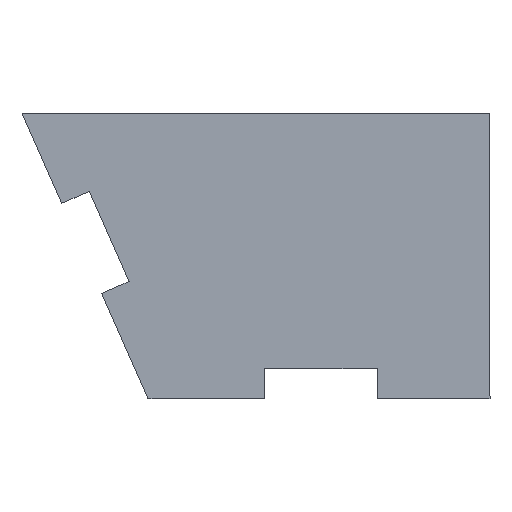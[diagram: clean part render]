
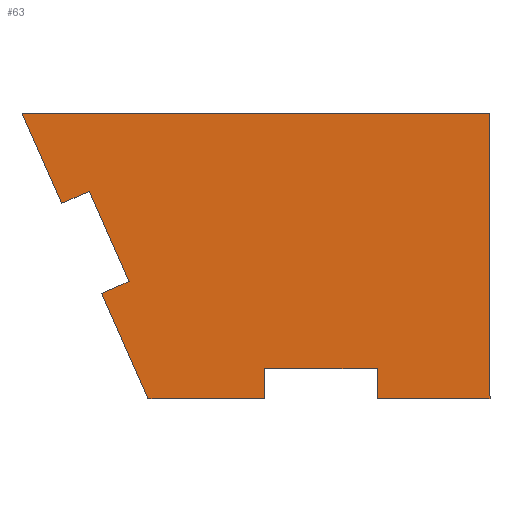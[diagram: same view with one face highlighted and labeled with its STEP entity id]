
A CAD part, top view. The second image highlights one B-rep face of the part: STEP entity #63.
In plain terms, the highlighted planar face has unit normal (0, 0, 1).
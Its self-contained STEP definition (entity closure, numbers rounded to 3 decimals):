
#63=ADVANCED_FACE('',(#91),#92,.T.);
#91=FACE_OUTER_BOUND('',#120,.T.);
#92=PLANE('',#121);
#120=EDGE_LOOP('',(#209,#210,#211,#212,#213,#214,#215,#216,#217,#218,#219,#220));
#121=AXIS2_PLACEMENT_3D('',#221,#222,#223);
#209=ORIENTED_EDGE('',*,*,#240,.F.);
#210=ORIENTED_EDGE('',*,*,#274,.F.);
#211=ORIENTED_EDGE('',*,*,#271,.F.);
#212=ORIENTED_EDGE('',*,*,#268,.F.);
#213=ORIENTED_EDGE('',*,*,#265,.F.);
#214=ORIENTED_EDGE('',*,*,#262,.F.);
#215=ORIENTED_EDGE('',*,*,#259,.F.);
#216=ORIENTED_EDGE('',*,*,#256,.F.);
#217=ORIENTED_EDGE('',*,*,#253,.F.);
#218=ORIENTED_EDGE('',*,*,#250,.F.);
#219=ORIENTED_EDGE('',*,*,#247,.F.);
#220=ORIENTED_EDGE('',*,*,#244,.F.);
#221=CARTESIAN_POINT('',(33.909,-17.632,4.0));
#222=DIRECTION('',(0.0,0.0,1.0));
#223=DIRECTION('',(1.0,0.0,0.0));
#240=EDGE_CURVE('',#276,#277,#278,.T.);
#244=EDGE_CURVE('',#277,#284,#285,.T.);
#247=EDGE_CURVE('',#284,#289,#290,.T.);
#250=EDGE_CURVE('',#289,#294,#295,.T.);
#253=EDGE_CURVE('',#294,#299,#300,.T.);
#256=EDGE_CURVE('',#299,#304,#305,.T.);
#259=EDGE_CURVE('',#304,#309,#310,.T.);
#262=EDGE_CURVE('',#309,#314,#315,.T.);
#265=EDGE_CURVE('',#314,#319,#320,.T.);
#268=EDGE_CURVE('',#319,#324,#325,.T.);
#271=EDGE_CURVE('',#324,#329,#330,.T.);
#274=EDGE_CURVE('',#329,#276,#334,.T.);
#276=VERTEX_POINT('',#336);
#277=VERTEX_POINT('',#337);
#278=LINE('',#338,#339);
#284=VERTEX_POINT('',#348);
#285=LINE('',#349,#350);
#289=VERTEX_POINT('',#356);
#290=LINE('',#357,#358);
#294=VERTEX_POINT('',#364);
#295=LINE('',#365,#366);
#299=VERTEX_POINT('',#372);
#300=LINE('',#373,#374);
#304=VERTEX_POINT('',#380);
#305=LINE('',#381,#382);
#309=VERTEX_POINT('',#388);
#310=LINE('',#389,#390);
#314=VERTEX_POINT('',#396);
#315=LINE('',#397,#398);
#319=VERTEX_POINT('',#404);
#320=LINE('',#405,#406);
#324=VERTEX_POINT('',#412);
#325=LINE('',#413,#414);
#329=VERTEX_POINT('',#420);
#330=LINE('',#421,#422);
#334=LINE('',#428,#429);
#336=CARTESIAN_POINT('',(47.255,-38.,4.0));
#337=CARTESIAN_POINT('',(47.255,-34.,4.0));
#338=CARTESIAN_POINT('',(47.255,-38.,4.0));
#339=VECTOR('',#432,1.0);
#348=CARTESIAN_POINT('',(32.255,-34.,4.0));
#349=CARTESIAN_POINT('',(32.255,-34.,4.0));
#350=VECTOR('',#436,1.0);
#356=CARTESIAN_POINT('',(32.255,-38.,4.0));
#357=CARTESIAN_POINT('',(32.255,-38.,4.0));
#358=VECTOR('',#439,1.0);
#364=CARTESIAN_POINT('',(16.759,-38.,4.0));
#365=CARTESIAN_POINT('',(32.255,-38.,4.0));
#366=VECTOR('',#442,1.0);
#372=CARTESIAN_POINT('',(10.584,-24.,4.0));
#373=CARTESIAN_POINT('',(10.584,-24.,4.0));
#374=VECTOR('',#445,1.0);
#380=CARTESIAN_POINT('',(14.244,-22.386,4.0));
#381=CARTESIAN_POINT('',(14.244,-22.386,4.0));
#382=VECTOR('',#448,1.0);
#388=CARTESIAN_POINT('',(8.952,-10.386,4.0));
#389=CARTESIAN_POINT('',(8.952,-10.386,4.0));
#390=VECTOR('',#451,1.);
#396=CARTESIAN_POINT('',(5.292,-12.,4.0));
#397=CARTESIAN_POINT('',(8.952,-10.386,4.0));
#398=VECTOR('',#454,1.0);
#404=CARTESIAN_POINT('',(0.0,0.,4.0));
#405=CARTESIAN_POINT('',(0.0,0.,4.0));
#406=VECTOR('',#457,1.);
#412=CARTESIAN_POINT('',(62.255,0.,4.0));
#413=CARTESIAN_POINT('',(62.255,0.,4.0));
#414=VECTOR('',#460,1.0);
#420=CARTESIAN_POINT('',(62.255,-38.,4.0));
#421=CARTESIAN_POINT('',(62.255,0.,4.0));
#422=VECTOR('',#463,1.0);
#428=CARTESIAN_POINT('',(62.255,-38.,4.0));
#429=VECTOR('',#466,1.0);
#432=DIRECTION('',(0.,1.0,0.0));
#436=DIRECTION('',(-1.0,0.,-0.0));
#439=DIRECTION('',(0.,-1.0,0.0));
#442=DIRECTION('',(-1.0,0.,0.0));
#445=DIRECTION('',(-0.404,0.915,0.0));
#448=DIRECTION('',(0.915,0.404,0.0));
#451=DIRECTION('',(-0.404,0.915,0.0));
#454=DIRECTION('',(-0.915,-0.404,0.0));
#457=DIRECTION('',(-0.404,0.915,0.0));
#460=DIRECTION('',(1.0,0.,0.0));
#463=DIRECTION('',(0.,-1.0,0.0));
#466=DIRECTION('',(-1.0,0.,0.0));
